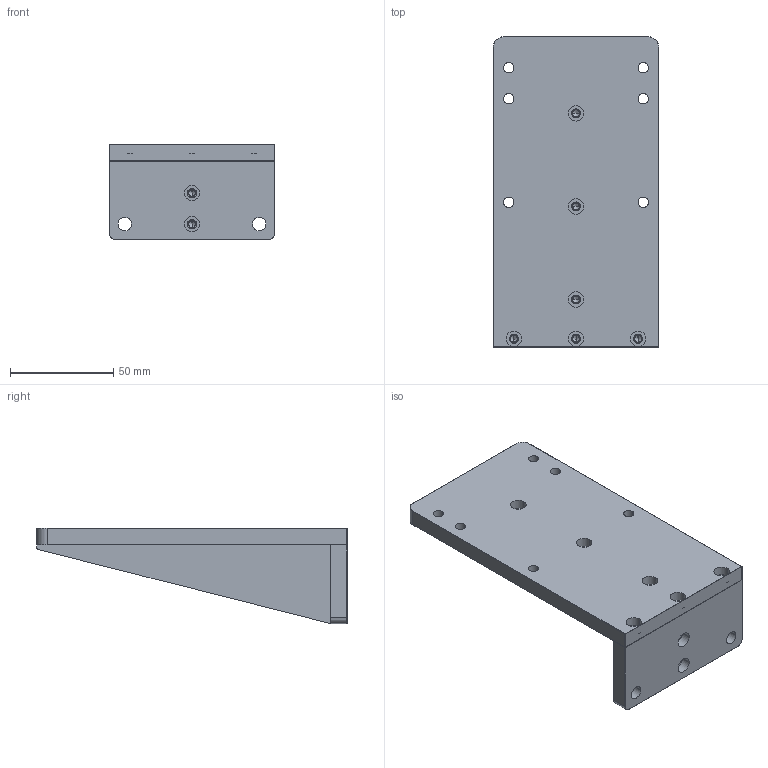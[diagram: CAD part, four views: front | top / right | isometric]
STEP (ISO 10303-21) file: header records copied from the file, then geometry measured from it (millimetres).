
FILE_DESCRIPTION (( 'STEP AP203' ), '1' );
FILE_NAME ('80直角.STEP', '2021-07-09T04:57:08', ( '微软用户' ), ( '微软中国' ), 'SwSTEP 2.0', 'SolidWorks 2017', '' );
FILE_SCHEMA (( 'CONFIG_CONTROL_DESIGN' ));
Length unit declared in the file: millimetre
Products named in the file (4): 80菁啣; 80踐啣; 80眻褒; 80x150蕾啣
Assembly tree (3 placements, depth 2):
  80眻褒
    80x150蕾啣
    80菁啣
    80踐啣
Bounding box: 80 x 150 x 46 mm (x, y, z)
Volume: 138804 mm3; surface area: 46223.9 mm2
Topology: 3 solids, 3 shells, 141 faces, 333 edges, 198 vertices
Faces by surface type: cylinder 69, plane 48, cone 24
Entity records: 4415 total; most frequent: DIRECTION 757, CARTESIAN_POINT 662, ORIENTED_EDGE 634, EDGE_CURVE 317, AXIS2_PLACEMENT_3D 293, VERTEX_POINT 198, EDGE_LOOP 189, VECTOR 171
